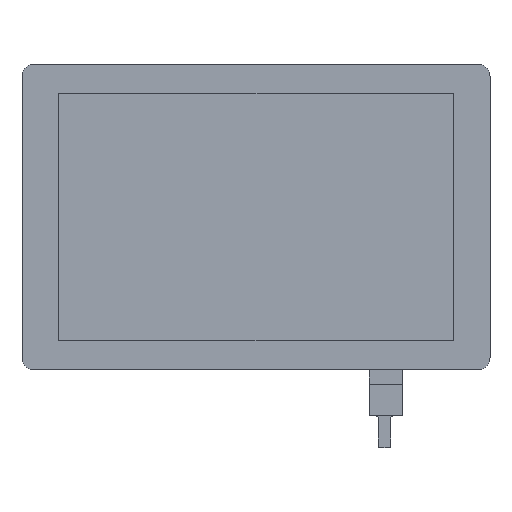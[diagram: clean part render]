
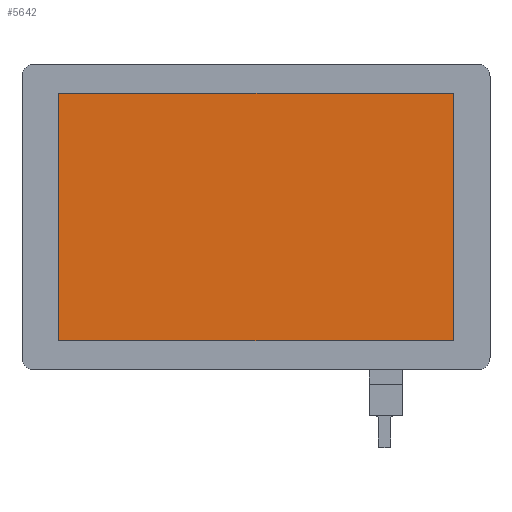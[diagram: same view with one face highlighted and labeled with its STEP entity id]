
A CAD part, top view. The second image highlights one B-rep face of the part: STEP entity #5642.
In plain terms, the highlighted planar face has unit normal (0, 0, 1).
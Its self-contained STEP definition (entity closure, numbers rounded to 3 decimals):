
#997 = EDGE_CURVE ( 'NONE', #40271, #35346, #9018, .T. ) ;
#1289 = VERTEX_POINT ( 'NONE', #8934 ) ;
#1837 = EDGE_LOOP ( 'NONE', ( #11398, #53293, #56321, #38654 ) ) ;
#2229 = EDGE_CURVE ( 'NONE', #61539, #40271, #19343, .T. ) ;
#5642 = ADVANCED_FACE ( 'NONE', ( #9145 ), #53025, .T. ) ;
#5928 = CARTESIAN_POINT ( 'NONE',  ( -108.78, -68.1, 1.09 ) ) ;
#8934 = CARTESIAN_POINT ( 'NONE',  ( 108.78, -68.1, 1.09 ) ) ;
#8950 = DIRECTION ( 'NONE',  ( -1., 0., 0. ) ) ;
#9018 = LINE ( 'NONE', #28236, #37711 ) ;
#9145 = FACE_OUTER_BOUND ( 'NONE', #1837, .T. ) ;
#10169 = EDGE_CURVE ( 'NONE', #35346, #1289, #30112, .T. ) ;
#10446 = CARTESIAN_POINT ( 'NONE',  ( 108.78, 68.1, 1.09 ) ) ;
#11398 = ORIENTED_EDGE ( 'NONE', *, *, #997, .T. ) ;
#13644 = VECTOR ( 'NONE', #44392, 1000. ) ;
#18899 = DIRECTION ( 'NONE',  ( 1., 0., 0. ) ) ;
#19343 = LINE ( 'NONE', #28491, #49256 ) ;
#28236 = CARTESIAN_POINT ( 'NONE',  ( -108.78, 68.1, 1.09 ) ) ;
#28491 = CARTESIAN_POINT ( 'NONE',  ( -108.78, 68.1, 1.09 ) ) ;
#29160 = VECTOR ( 'NONE', #50218, 1000. ) ;
#30112 = LINE ( 'NONE', #34591, #13644 ) ;
#34591 = CARTESIAN_POINT ( 'NONE',  ( -108.78, -68.1, 1.09 ) ) ;
#35346 = VERTEX_POINT ( 'NONE', #5928 ) ;
#36482 = EDGE_CURVE ( 'NONE', #1289, #61539, #54313, .T. ) ;
#37711 = VECTOR ( 'NONE', #62368, 1000. ) ;
#38654 = ORIENTED_EDGE ( 'NONE', *, *, #2229, .T. ) ;
#40271 = VERTEX_POINT ( 'NONE', #44113 ) ;
#41908 = AXIS2_PLACEMENT_3D ( 'NONE', #42621, #42912, #18899 ) ;
#42621 = CARTESIAN_POINT ( 'NONE',  ( 0., 0., 1.09 ) ) ;
#42912 = DIRECTION ( 'NONE',  ( 0., 0., 1. ) ) ;
#44113 = CARTESIAN_POINT ( 'NONE',  ( -108.78, 68.1, 1.09 ) ) ;
#44392 = DIRECTION ( 'NONE',  ( 1., 0., 0. ) ) ;
#49256 = VECTOR ( 'NONE', #8950, 1000. ) ;
#49537 = CARTESIAN_POINT ( 'NONE',  ( 108.78, 68.1, 1.09 ) ) ;
#50218 = DIRECTION ( 'NONE',  ( 0., 1., 0. ) ) ;
#53025 = PLANE ( 'NONE',  #41908 ) ;
#53293 = ORIENTED_EDGE ( 'NONE', *, *, #10169, .T. ) ;
#54313 = LINE ( 'NONE', #10446, #29160 ) ;
#56321 = ORIENTED_EDGE ( 'NONE', *, *, #36482, .T. ) ;
#61539 = VERTEX_POINT ( 'NONE', #49537 ) ;
#62368 = DIRECTION ( 'NONE',  ( 0., -1., 0. ) ) ;
